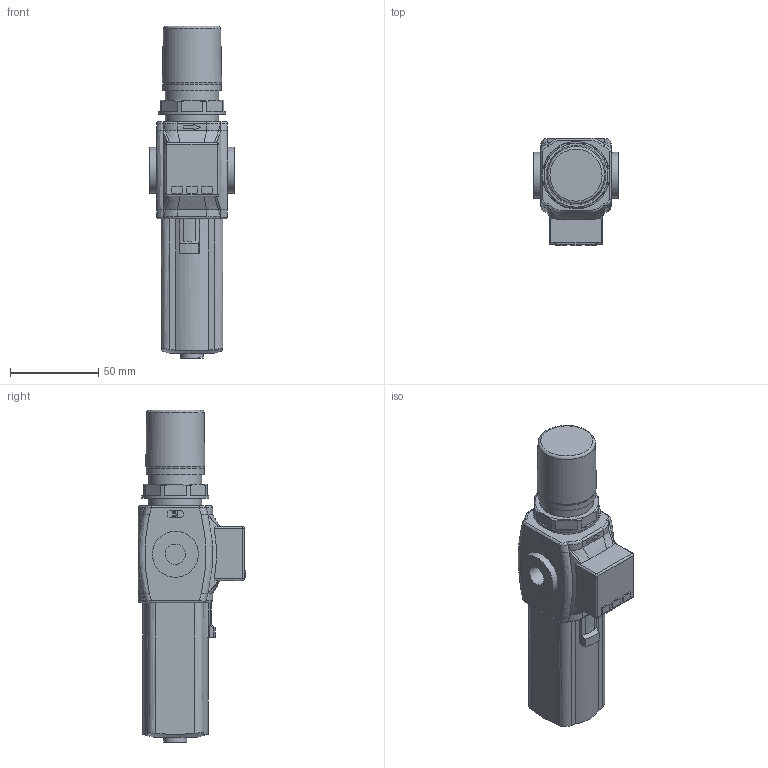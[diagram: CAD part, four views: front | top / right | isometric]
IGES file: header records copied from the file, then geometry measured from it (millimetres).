
Global section: file name: #171BEP##S; native system: Autodesk Inventor 2014; preprocessor: unknown; author: M. Valota; organization: Pneumax S.p.A.; date: 20140522.102833; units: millimetre
Bounding box: 48 x 60.8 x 187.6 mm (x, y, z)
Volume: 243066.4 mm3; surface area: 36676.2 mm2
Topology: 2 solids, 3 shells, 385 faces, 947 edges, 607 vertices
Faces by surface type: bspline 385
